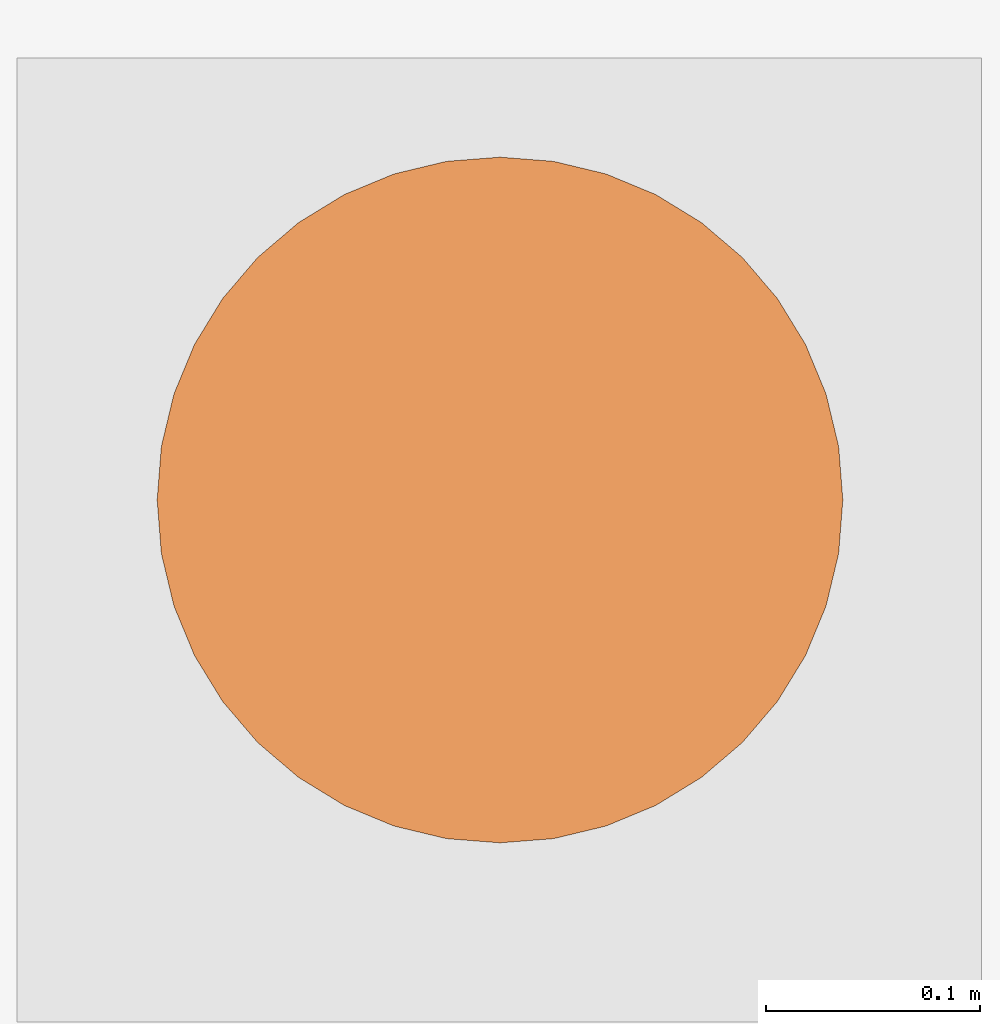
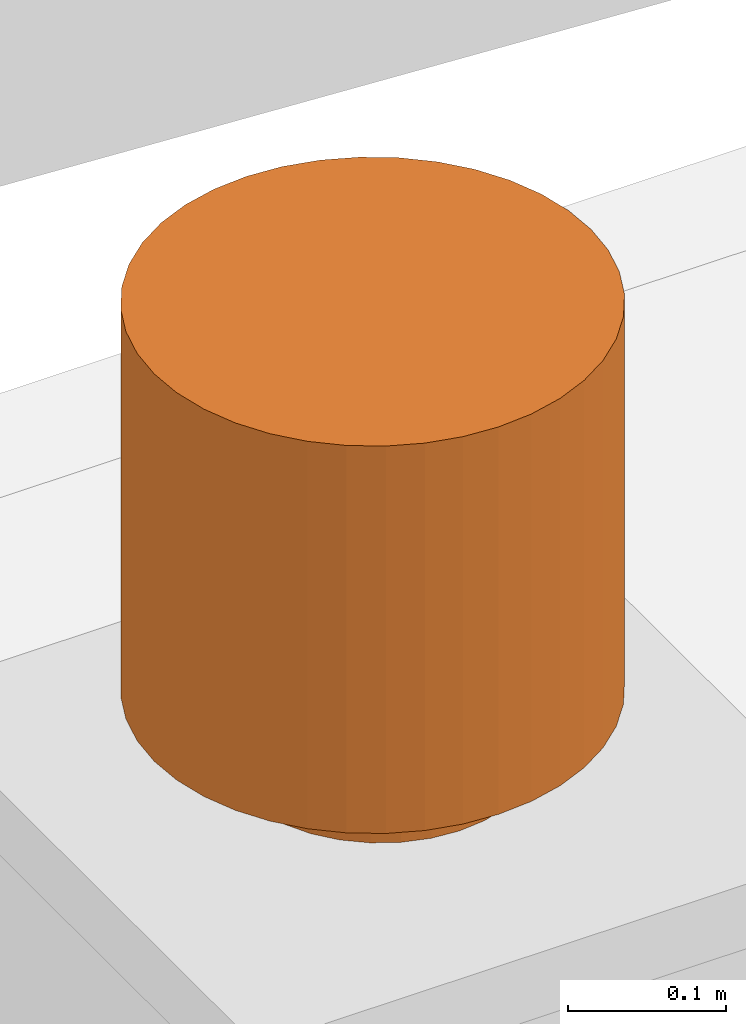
# One storey, part 74 of 75: 1 proxy.
"""IFC2X3 building model written with IfcOpenShell, lengths in metres."""

from ifc_helpers import new_model, entity, si_unit, converted_unit, derived_unit, direction, frame, origin, origin_2d_with_axis, place, context, subcontext, project, spatial, circle, extrude, source, transform, mapped, material, material_list, type_object, type_shapes, element, save


model = new_model("IFC2X3")

# Units and contexts
model_context = context("Model", 3, precision=1e-05, world=origin(), true_north=direction((6.12303176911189e-17, 1.0)))
body_context = subcontext(model_context, "Body", "Model", "MODEL_VIEW")
ifc_project = project(units=[si_unit("LENGTHUNIT", "METRE"), si_unit("AREAUNIT", "SQUARE_METRE"), si_unit("VOLUMEUNIT", "CUBIC_METRE"), converted_unit("PLANEANGLEUNIT", "DEGREE", entity("IfcRatioMeasure", 0.0174532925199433), si_unit("PLANEANGLEUNIT", "RADIAN"), dimensions=[0, 0, 0, 0, 0, 0, 0]), si_unit("MASSUNIT", "GRAM", prefix="KILO"), derived_unit("MASSDENSITYUNIT", [(si_unit("MASSUNIT", "GRAM", prefix="KILO"), 1), (si_unit("LENGTHUNIT", "METRE"), -3)]), derived_unit("MOMENTOFINERTIAUNIT", [(si_unit("LENGTHUNIT", "METRE"), 4)]), si_unit("TIMEUNIT", "SECOND"), si_unit("FREQUENCYUNIT", "HERTZ"), si_unit("THERMODYNAMICTEMPERATUREUNIT", "DEGREE_CELSIUS"), derived_unit("THERMALTRANSMITTANCEUNIT", [(si_unit("MASSUNIT", "GRAM", prefix="KILO"), 1), (si_unit("THERMODYNAMICTEMPERATUREUNIT", "KELVIN"), -1), (si_unit("TIMEUNIT", "SECOND"), -3)]), derived_unit("VOLUMETRICFLOWRATEUNIT", [(si_unit("LENGTHUNIT", "METRE"), 3), (si_unit("TIMEUNIT", "SECOND"), -1)]), si_unit("ELECTRICCURRENTUNIT", "AMPERE"), si_unit("ELECTRICVOLTAGEUNIT", "VOLT"), si_unit("POWERUNIT", "WATT"), si_unit("FORCEUNIT", "NEWTON", prefix="KILO"), si_unit("ILLUMINANCEUNIT", "LUX"), si_unit("LUMINOUSFLUXUNIT", "LUMEN"), si_unit("LUMINOUSINTENSITYUNIT", "CANDELA"), derived_unit("USERDEFINED", [(si_unit("MASSUNIT", "GRAM", prefix="KILO"), -1), (si_unit("LENGTHUNIT", "METRE"), -2), (si_unit("TIMEUNIT", "SECOND"), 3), (si_unit("LUMINOUSFLUXUNIT", "LUMEN"), 1)]), derived_unit("LINEARVELOCITYUNIT", [(si_unit("LENGTHUNIT", "METRE"), 1), (si_unit("TIMEUNIT", "SECOND"), -1)]), si_unit("PRESSUREUNIT", "PASCAL"), derived_unit("USERDEFINED", [(si_unit("LENGTHUNIT", "METRE"), -2), (si_unit("MASSUNIT", "GRAM", prefix="KILO"), 1), (si_unit("TIMEUNIT", "SECOND"), -2)]), derived_unit("LINEARFORCEUNIT", [(si_unit("MASSUNIT", "GRAM", prefix="KILO"), 1), (si_unit("LENGTHUNIT", "METRE"), 1), (si_unit("TIMEUNIT", "SECOND"), -2), (si_unit("LENGTHUNIT", "METRE"), -1)]), derived_unit("PLANARFORCEUNIT", [(si_unit("MASSUNIT", "GRAM", prefix="KILO"), 1), (si_unit("LENGTHUNIT", "METRE"), 1), (si_unit("TIMEUNIT", "SECOND"), -2), (si_unit("LENGTHUNIT", "METRE"), -2)])], contexts=[model_context])

# Site, building, storey
site_placement = place(None, origin())
site = spatial("IfcSite", under=ifc_project, at=site_placement, Name="Superficie", CompositionType="ELEMENT")
building_placement = place(site_placement, origin())
building = spatial("IfcBuilding", under=site, at=building_placement, Name="Telegestiones", CompositionType="ELEMENT")
storey_placement = place(building_placement, origin())
storey = spatial("IfcBuildingStorey", under=building, at=storey_placement, Name="Nivel 0_NPT", CompositionType="ELEMENT", Elevation=0.0)

# Proxy
ifc_material = material(Name="Acero")
ifc_material_list_1 = material_list([ifc_material, ifc_material])
ifc_material_list_2 = material_list([ifc_material, ifc_material])
building_element_proxy_type = type_object("IfcBuildingElementProxyType", Name="Busto:Busto", PredefinedType="NOTDEFINED", material=ifc_material_list_2)
shared_shape = source(origin(), body_context, "Body", "SweptSolid", [
    extrude(circle(Radius=0.16, at=origin_2d_with_axis()), frame((-12.0535264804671, 8.6524685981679, 1.15)), (0.0, 0.0, 1.0), 0.3),
    extrude(circle(Radius=0.1, at=origin_2d_with_axis()), frame((-12.0486243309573, 8.65083266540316, 1.1)), (0.0, 0.0, 1.0), 0.05),
])
type_shapes(building_element_proxy_type, [shared_shape])
proxy_placement = place(storey_placement, origin())
element("IfcBuildingElementProxy", 1, at=proxy_placement, inside=storey, type_object=building_element_proxy_type, material=ifc_material_list_1, Name="Busto:Busto", ObjectType="Busto:Busto", context=body_context, shape_type="MappedRepresentation", body=[
    mapped(shared_shape, transform((0.0, 0.0, 0.0), scale=1.0)),
])

save(model, "model.ifc")
